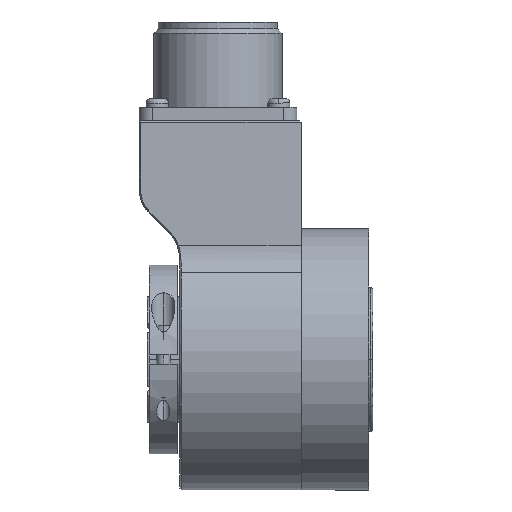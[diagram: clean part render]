
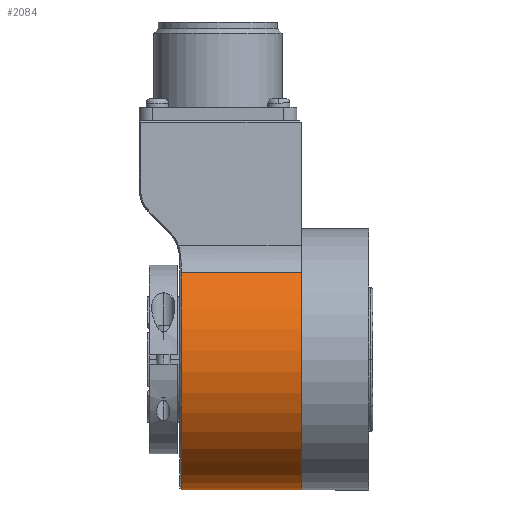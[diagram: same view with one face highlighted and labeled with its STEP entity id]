
A CAD part, front view. The second image highlights one B-rep face of the part: STEP entity #2084.
In plain terms, the highlighted cylindrical face has radius 29 mm (diameter 58 mm), a partial arc.
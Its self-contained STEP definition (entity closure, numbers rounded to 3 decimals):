
#32 = ORIENTED_EDGE ( 'NONE', *, *, #11907, .T. ) ;
#1112 = VERTEX_POINT ( 'NONE', #14231 ) ;
#1139 = CARTESIAN_POINT ( 'NONE',  ( 0., 0., 0. ) ) ;
#1517 = EDGE_CURVE ( 'NONE', #14513, #1112, #6556, .T. ) ;
#1688 = DIRECTION ( 'NONE',  ( -1., 0., 0. ) ) ;
#2084 = ADVANCED_FACE ( 'NONE', ( #6003 ), #12495, .T. ) ;
#2316 = DIRECTION ( 'NONE',  ( 0., 0., -1. ) ) ;
#3176 = VECTOR ( 'NONE', #1688, 1000. ) ;
#4002 = DIRECTION ( 'NONE',  ( -1., 0., 0. ) ) ;
#4516 = VERTEX_POINT ( 'NONE', #18947 ) ;
#4643 = EDGE_CURVE ( 'NONE', #4516, #14513, #11532, .T. ) ;
#5060 = DIRECTION ( 'NONE',  ( 0., 0., -1. ) ) ;
#5200 = EDGE_LOOP ( 'NONE', ( #16505, #32, #14135, #18610 ) ) ;
#5590 = VECTOR ( 'NONE', #14006, 1000. ) ;
#5664 = CARTESIAN_POINT ( 'NONE',  ( 0., 0., -29. ) ) ;
#6003 = FACE_OUTER_BOUND ( 'NONE', #5200, .T. ) ;
#6556 = CIRCLE ( 'NONE', #21079, 29. ) ;
#6637 = AXIS2_PLACEMENT_3D ( 'NONE', #17330, #4002, #7369 ) ;
#7369 = DIRECTION ( 'NONE',  ( 0., 0., -1. ) ) ;
#7933 = AXIS2_PLACEMENT_3D ( 'NONE', #1139, #15845, #2316 ) ;
#8214 = CARTESIAN_POINT ( 'NONE',  ( -26.7, -21.709, 19.228 ) ) ;
#8311 = CARTESIAN_POINT ( 'NONE',  ( 0., 0., -29. ) ) ;
#10351 = CIRCLE ( 'NONE', #6637, 29. ) ;
#11532 = LINE ( 'NONE', #18144, #3176 ) ;
#11907 = EDGE_CURVE ( 'NONE', #13340, #4516, #10351, .T. ) ;
#12495 = CYLINDRICAL_SURFACE ( 'NONE', #7933, 29. ) ;
#13340 = VERTEX_POINT ( 'NONE', #8311 ) ;
#13464 = EDGE_CURVE ( 'NONE', #13340, #1112, #17238, .T. ) ;
#14006 = DIRECTION ( 'NONE',  ( -1., 0., 0. ) ) ;
#14135 = ORIENTED_EDGE ( 'NONE', *, *, #4643, .T. ) ;
#14231 = CARTESIAN_POINT ( 'NONE',  ( -26.7, 0., -29. ) ) ;
#14513 = VERTEX_POINT ( 'NONE', #8214 ) ;
#15845 = DIRECTION ( 'NONE',  ( -1., 0., 0. ) ) ;
#16505 = ORIENTED_EDGE ( 'NONE', *, *, #13464, .F. ) ;
#17238 = LINE ( 'NONE', #5664, #5590 ) ;
#17330 = CARTESIAN_POINT ( 'NONE',  ( 0., 0., 0. ) ) ;
#17855 = DIRECTION ( 'NONE',  ( 1., 0., 0. ) ) ;
#18144 = CARTESIAN_POINT ( 'NONE',  ( 0., -21.709, 19.228 ) ) ;
#18610 = ORIENTED_EDGE ( 'NONE', *, *, #1517, .T. ) ;
#18947 = CARTESIAN_POINT ( 'NONE',  ( 0., -21.709, 19.228 ) ) ;
#19922 = CARTESIAN_POINT ( 'NONE',  ( -26.7, 0., 0. ) ) ;
#21079 = AXIS2_PLACEMENT_3D ( 'NONE', #19922, #17855, #5060 ) ;
